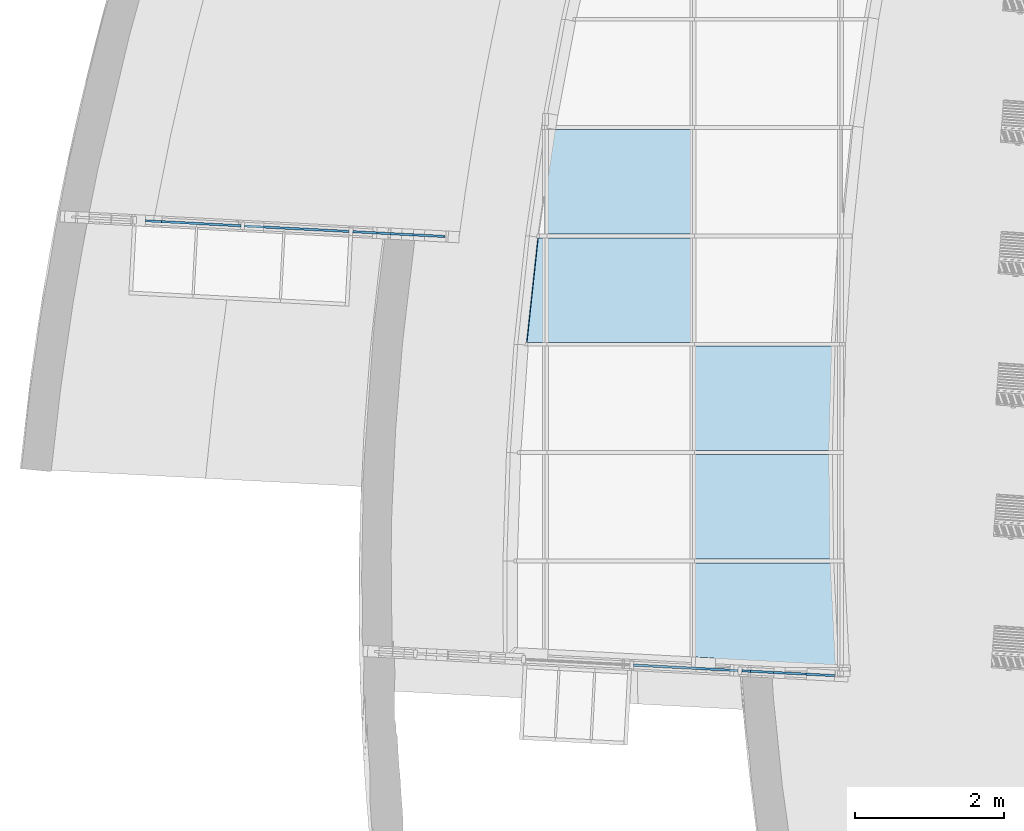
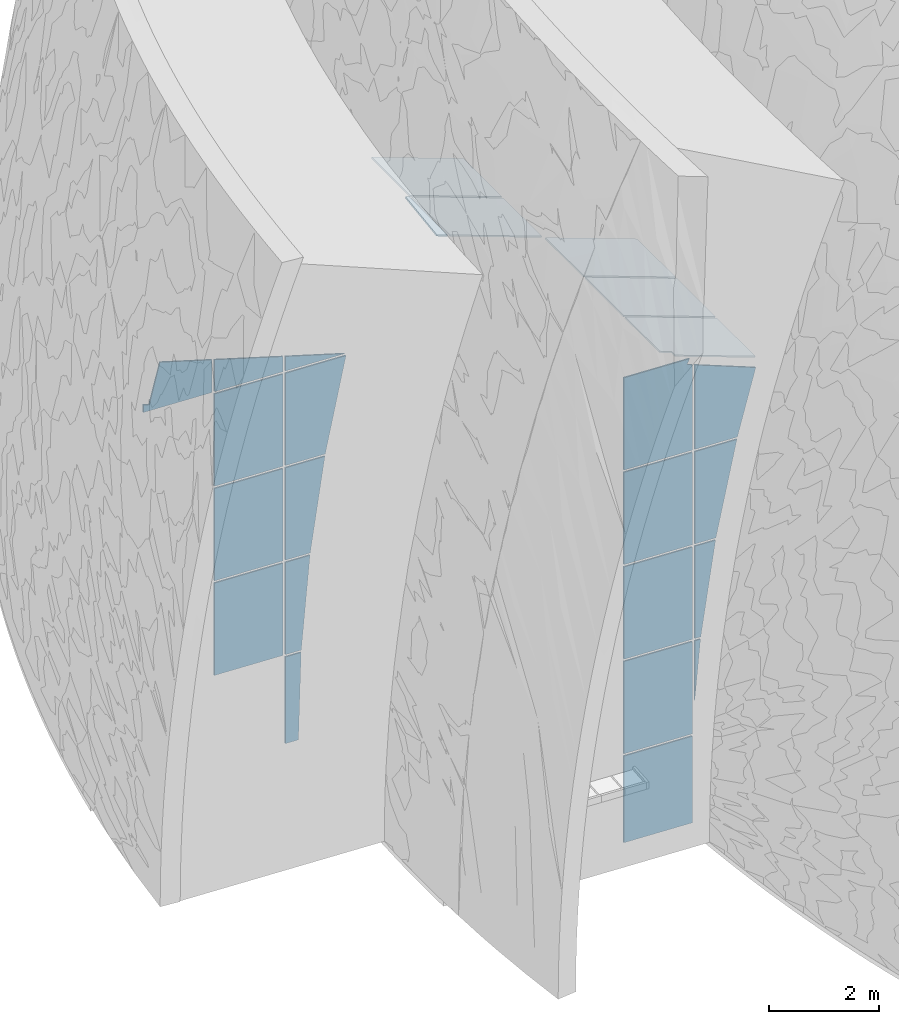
# One storey, part 38 of 82: 25 plates, 2 elements without a shape of their own.
"""IFC2X3 building model written with IfcOpenShell, lengths in millimetres."""

from ifc_helpers import new_model, entity, si_unit, converted_unit, derived_unit, direction, frame, frame_2d, origin, place, context, subcontext, project, spatial, polyline, rectangle, outline, extrude, source, transform, mapped, material, layer, layer_set, layer_usage, type_object, type_shapes, element, aggregate, save


model = new_model("IFC2X3")

# Units and contexts
model_context = context("Model", 3, precision=0.01, world=origin(), true_north=direction((6.12303176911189e-17, 1.0)))
body_context = subcontext(model_context, "Body", "Model", "MODEL_VIEW")
ifc_project = project(units=[si_unit("LENGTHUNIT", "METRE", prefix="MILLI"), si_unit("AREAUNIT", "SQUARE_METRE"), si_unit("VOLUMEUNIT", "CUBIC_METRE"), converted_unit("PLANEANGLEUNIT", "DEGREE", entity("IfcRatioMeasure", 0.0174532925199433), si_unit("PLANEANGLEUNIT", "RADIAN"), dimensions=[0, 0, 0, 0, 0, 0, 0]), si_unit("MASSUNIT", "GRAM", prefix="KILO"), derived_unit("MASSDENSITYUNIT", [(si_unit("MASSUNIT", "GRAM", prefix="KILO"), 1), (si_unit("LENGTHUNIT", "METRE"), -3)]), si_unit("TIMEUNIT", "SECOND"), si_unit("FREQUENCYUNIT", "HERTZ"), si_unit("THERMODYNAMICTEMPERATUREUNIT", "DEGREE_CELSIUS"), derived_unit("THERMALTRANSMITTANCEUNIT", [(si_unit("MASSUNIT", "GRAM", prefix="KILO"), 1), (si_unit("THERMODYNAMICTEMPERATUREUNIT", "KELVIN"), -1), (si_unit("TIMEUNIT", "SECOND"), -3)]), derived_unit("VOLUMETRICFLOWRATEUNIT", [(si_unit("LENGTHUNIT", "METRE"), 3), (si_unit("TIMEUNIT", "SECOND"), -1)]), si_unit("ELECTRICCURRENTUNIT", "AMPERE"), si_unit("ELECTRICVOLTAGEUNIT", "VOLT"), si_unit("POWERUNIT", "WATT"), si_unit("FORCEUNIT", "NEWTON", prefix="KILO"), si_unit("ILLUMINANCEUNIT", "LUX"), si_unit("LUMINOUSFLUXUNIT", "LUMEN"), si_unit("LUMINOUSINTENSITYUNIT", "CANDELA"), derived_unit("USERDEFINED", [(si_unit("MASSUNIT", "GRAM", prefix="KILO"), -1), (si_unit("LENGTHUNIT", "METRE"), -2), (si_unit("TIMEUNIT", "SECOND"), 3), (si_unit("LUMINOUSFLUXUNIT", "LUMEN"), 1)]), derived_unit("LINEARVELOCITYUNIT", [(si_unit("LENGTHUNIT", "METRE"), 1), (si_unit("TIMEUNIT", "SECOND"), -1)]), si_unit("PRESSUREUNIT", "PASCAL"), derived_unit("USERDEFINED", [(si_unit("LENGTHUNIT", "METRE"), -2), (si_unit("MASSUNIT", "GRAM", prefix="KILO"), 1), (si_unit("TIMEUNIT", "SECOND"), -2)])], contexts=[model_context])

# Site, building, storey
site_placement = place(None, origin())
site = spatial("IfcSite", under=ifc_project, at=site_placement, Name="表面", CompositionType="ELEMENT")
building_placement = place(site_placement, origin())
building = spatial("IfcBuilding", under=site, at=building_placement, CompositionType="ELEMENT")
storey_placement = place(building_placement, origin())
storey = spatial("IfcBuildingStorey", under=building, at=storey_placement, Name="1F", CompositionType="ELEMENT", Elevation=0.0)

# Curtain wall, plates
curtain_wall_type = type_object("IfcCurtainWallType", Name="幕墙系统:1450 x 2100mm", PredefinedType="NOTDEFINED")
curtain_wall_1_placement = place(storey_placement, origin())
curtain_wall_1 = element("IfcCurtainWall", 1, at=curtain_wall_1_placement, inside=storey, type_object=curtain_wall_type, Name="幕墙系统:1450 x 2100mm", ObjectType="幕墙系统:1450 x 2100mm")
ifc_material = material(Name="<Unnamed>")
ifc_layer = layer(ifc_material, 30.0)
ifc_layer_set = layer_set([ifc_layer], Name="幕墙系统:1450 x 2100mm")
ifc_layer_usage_1 = layer_usage(ifc_layer_set, "AXIS3", "POSITIVE", 0.0)
plate_type_1 = type_object("IfcPlateType", Name="玻璃", PredefinedType="CURTAIN_PANEL", material=ifc_layer_set)
shared_shape_1 = source(origin(), body_context, "Body", "SweptSolid", [
    extrude(outline(polyline([(-958.652714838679, -147.075876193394), (967.150379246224, -147.075876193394), (957.849788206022, 174.869663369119), (-966.347452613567, 119.282089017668), (-958.652714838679, -147.075876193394)])), frame((13.9026912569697, -15.0, 962.5), z_axis=(0.0, 1.0, 0.0), x_axis=(-0.0288766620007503, 0.0, 0.999582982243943)), (0.0, 0.0, 1.0), 30.0),
])
type_shapes(plate_type_1, [shared_shape_1])
plate_1_placement = place(curtain_wall_1_placement, frame((-41151.1614347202, -14448.3698261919, 150.0), z_axis=(0.0, 0.0, 1.0), x_axis=(-0.998629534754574, 0.0523359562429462, 0.0)))
plate_1 = element("IfcPlate", 2, at=plate_1_placement, type_object=plate_type_1, material=ifc_layer_usage_1, Name="系统嵌板:玻璃", ObjectType="玻璃", context=body_context, shape_type="MappedRepresentation", body=[
    mapped(shared_shape_1, transform((0.0, 0.0, 0.0), scale=1.0)),
])
ifc_layer_usage_2 = layer_usage(ifc_layer_set, "AXIS3", "POSITIVE", 0.0)
plate_type_2 = type_object("IfcPlateType", Name="玻璃", PredefinedType="CURTAIN_PANEL", material=ifc_layer_set)
shared_shape_2 = source(origin(), body_context, "Body", "SweptSolid", [
    extrude(outline(polyline([(-1010.95273394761, -206.02424893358), (1046.78322174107, -206.02424893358), (1003.23131972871, 294.820057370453), (-1039.06180752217, 117.228440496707), (-1010.95273394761, -206.02424893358)])), frame((44.5654457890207, -15.0, 1025.0), z_axis=(0.0, 1.0, 0.0), x_axis=(-0.0866300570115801, 0.0, 0.996240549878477)), (0.0, 0.0, 1.0), 30.0),
])
type_shapes(plate_type_2, [shared_shape_2])
plate_2_placement = place(curtain_wall_1_placement, frame((-41060.9579959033, -14453.097188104, 2125.0), z_axis=(0.0, 0.0, 1.0), x_axis=(-0.998629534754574, 0.0523359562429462, 0.0)))
plate_2 = element("IfcPlate", 3, at=plate_2_placement, type_object=plate_type_2, material=ifc_layer_usage_2, Name="系统嵌板:玻璃", ObjectType="玻璃", context=body_context, shape_type="MappedRepresentation", body=[
    mapped(shared_shape_2, transform((0.0, 0.0, 0.0), scale=1.0)),
])
ifc_layer_usage_3 = layer_usage(ifc_layer_set, "AXIS3", "POSITIVE", 0.0)
plate_type_3 = type_object("IfcPlateType", Name="玻璃", PredefinedType="CURTAIN_PANEL", material=ifc_layer_set)
shared_shape_3 = source(origin(), body_context, "Body", "SweptSolid", [
    extrude(rectangle(XDim=30.0, YDim=1400.0, at=frame_2d((0.0, 3.97903932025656e-13), x_axis=(1.0, 0.0))), frame((0.0, 0.0, 0.0), z_axis=(0.0, 0.0, 1.0), x_axis=(0.0, 1.0, 0.0)), (0.0, 0.0, 1.0), 2050.0),
])
type_shapes(plate_type_3, [shared_shape_3])
plate_3_placement = place(curtain_wall_1_placement, frame((-42060.9528124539, -14400.689680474, 2125.0), z_axis=(0.0, 0.0, 1.0), x_axis=(-0.998629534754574, 0.0523359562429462, 0.0)))
plate_3 = element("IfcPlate", 4, at=plate_3_placement, type_object=plate_type_3, material=ifc_layer_usage_3, Name="系统嵌板:玻璃", ObjectType="玻璃", context=body_context, shape_type="MappedRepresentation", body=[
    mapped(shared_shape_3, transform((0.0, 0.0, 0.0), scale=1.0)),
])
ifc_layer_usage_4 = layer_usage(ifc_layer_set, "AXIS3", "POSITIVE", 0.0)
plate_4_placement = place(curtain_wall_1_placement, frame((-42060.9528124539, -14400.689680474, 4225.0), z_axis=(0.0, 0.0, 1.0), x_axis=(-0.998629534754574, 0.0523359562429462, 0.0)))
plate_4 = element("IfcPlate", 5, at=plate_4_placement, type_object=plate_type_3, material=ifc_layer_usage_4, Name="系统嵌板:玻璃", ObjectType="玻璃", context=body_context, shape_type="MappedRepresentation", body=[
    mapped(shared_shape_3, transform((0.0, 0.0, 0.0), scale=1.0)),
])
ifc_layer_usage_5 = layer_usage(ifc_layer_set, "AXIS3", "POSITIVE", 0.0)
plate_5_placement = place(curtain_wall_1_placement, frame((-42060.9528124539, -14400.689680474, 6325.0), z_axis=(0.0, 0.0, 1.0), x_axis=(-0.998629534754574, 0.0523359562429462, 0.0)))
plate_5 = element("IfcPlate", 6, at=plate_5_placement, type_object=plate_type_3, material=ifc_layer_usage_5, Name="系统嵌板:玻璃", ObjectType="玻璃", context=body_context, shape_type="MappedRepresentation", body=[
    mapped(shared_shape_3, transform((0.0, 0.0, 0.0), scale=1.0)),
])

curtain_wall_2_placement = place(storey_placement, origin())
curtain_wall_2 = element("IfcCurtainWall", 7, at=curtain_wall_2_placement, inside=storey, type_object=curtain_wall_type, Name="幕墙系统:1450 x 2100mm", ObjectType="幕墙系统:1450 x 2100mm")
ifc_layer_usage_6 = layer_usage(ifc_layer_set, "AXIS3", "POSITIVE", 0.0)
plate_6_placement = place(curtain_wall_2_placement, frame((-34806.7632320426, -16671.8767198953, 9988.89403753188), z_axis=(-0.93969262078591, 0.0, 0.342020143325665), x_axis=(0.0, -1.0, 0.0)))
plate_6 = element("IfcPlate", 8, at=plate_6_placement, type_object=plate_type_3, material=ifc_layer_usage_6, Name="系统嵌板:玻璃", ObjectType="玻璃", context=body_context, shape_type="MappedRepresentation", body=[
    mapped(shared_shape_3, transform((0.0, 0.0, 0.0), scale=1.0)),
])
ifc_layer_usage_7 = layer_usage(ifc_layer_set, "AXIS3", "POSITIVE", 0.0)
plate_7_placement = place(curtain_wall_2_placement, frame((-34806.7632320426, -18121.8767198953, 9988.89403753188), z_axis=(-0.93969262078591, 0.0, 0.342020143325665), x_axis=(0.0, -1.0, 0.0)))
plate_7 = element("IfcPlate", 9, at=plate_7_placement, type_object=plate_type_3, material=ifc_layer_usage_7, Name="系统嵌板:玻璃", ObjectType="玻璃", context=body_context, shape_type="MappedRepresentation", body=[
    mapped(shared_shape_3, transform((0.0, 0.0, 0.0), scale=1.0)),
])
ifc_layer_usage_8 = layer_usage(ifc_layer_set, "AXIS3", "POSITIVE", 0.0)
plate_8_placement = place(curtain_wall_2_placement, frame((-36780.117735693, -13771.8767198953, 10707.1363385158), z_axis=(-0.93969262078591, 0.0, 0.342020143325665), x_axis=(0.0, -1.0, 0.0)))
plate_8 = element("IfcPlate", 10, at=plate_8_placement, type_object=plate_type_3, material=ifc_layer_usage_8, Name="系统嵌板:玻璃", ObjectType="玻璃", context=body_context, shape_type="MappedRepresentation", body=[
    mapped(shared_shape_3, transform((0.0, 0.0, 0.0), scale=1.0)),
])
ifc_layer_usage_9 = layer_usage(ifc_layer_set, "AXIS3", "POSITIVE", 0.0)
plate_9_placement = place(curtain_wall_2_placement, frame((-36780.117735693, -15221.8767198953, 10707.1363385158), z_axis=(-0.93969262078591, 0.0, 0.342020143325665), x_axis=(0.0, -1.0, 0.0)))
plate_9 = element("IfcPlate", 11, at=plate_9_placement, type_object=plate_type_3, material=ifc_layer_usage_9, Name="系统嵌板:玻璃", ObjectType="玻璃", context=body_context, shape_type="MappedRepresentation", body=[
    mapped(shared_shape_3, transform((0.0, 0.0, 0.0), scale=1.0)),
])
ifc_layer_usage_10 = layer_usage(ifc_layer_set, "AXIS3", "POSITIVE", 0.0)
plate_10_placement = place(curtain_wall_2_placement, frame((-36854.4447370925, -20277.6646656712, 2125.0), z_axis=(0.0, 0.0, 1.0), x_axis=(-0.998629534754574, 0.0523359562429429, 0.0)))
plate_10 = element("IfcPlate", 12, at=plate_10_placement, type_object=plate_type_3, material=ifc_layer_usage_10, Name="系统嵌板:玻璃", ObjectType="玻璃", context=body_context, shape_type="MappedRepresentation", body=[
    mapped(shared_shape_3, transform((0.0, 0.0, 0.0), scale=1.0)),
])
ifc_layer_usage_11 = layer_usage(ifc_layer_set, "AXIS3", "POSITIVE", 0.0)
plate_11_placement = place(curtain_wall_2_placement, frame((-36854.4447370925, -20277.6646656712, 4225.0), z_axis=(0.0, 0.0, 1.0), x_axis=(-0.998629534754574, 0.0523359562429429, 0.0)))
plate_11 = element("IfcPlate", 13, at=plate_11_placement, type_object=plate_type_3, material=ifc_layer_usage_11, Name="系统嵌板:玻璃", ObjectType="玻璃", context=body_context, shape_type="MappedRepresentation", body=[
    mapped(shared_shape_3, transform((0.0, 0.0, 0.0), scale=1.0)),
])
ifc_layer_usage_12 = layer_usage(ifc_layer_set, "AXIS3", "POSITIVE", 0.0)
plate_12_placement = place(curtain_wall_2_placement, frame((-36854.4447370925, -20277.6646656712, 6325.0), z_axis=(0.0, 0.0, 1.0), x_axis=(-0.998629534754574, 0.0523359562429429, 0.0)))
plate_12 = element("IfcPlate", 14, at=plate_12_placement, type_object=plate_type_3, material=ifc_layer_usage_12, Name="系统嵌板:玻璃", ObjectType="玻璃", context=body_context, shape_type="MappedRepresentation", body=[
    mapped(shared_shape_3, transform((0.0, 0.0, 0.0), scale=1.0)),
])

# Plate
ifc_layer_usage_13 = layer_usage(ifc_layer_set, "AXIS3", "POSITIVE", 0.0)
plate_type_4 = type_object("IfcPlateType", Name="玻璃", PredefinedType="CURTAIN_PANEL", material=ifc_layer_set)
shared_shape_4 = source(origin(), body_context, "Body", "SweptSolid", [
    extrude(outline(polyline([(-988.41692488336, -325.104748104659), (1083.29106325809, -325.104748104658), (966.822668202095, 473.098616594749), (-1061.69680657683, 177.110879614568), (-988.41692488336, -325.104748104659)])), frame((74.7805072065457, -15.0, 1025.0), z_axis=(0.0, 1.0, 0.0), x_axis=(-0.144384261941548, 0.0, 0.989521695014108)), (0.0, 0.0, 1.0), 30.0),
])
type_shapes(plate_type_4, [shared_shape_4])
plate_13_placement = place(curtain_wall_1_placement, frame((-40909.2055333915, -14461.050197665, 4225.0), z_axis=(0.0, 0.0, 1.0), x_axis=(-0.998629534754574, 0.0523359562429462, 0.0)))
plate_13 = element("IfcPlate", 15, at=plate_13_placement, type_object=plate_type_4, material=ifc_layer_usage_13, Name="系统嵌板:玻璃", ObjectType="玻璃", context=body_context, shape_type="MappedRepresentation", body=[
    mapped(shared_shape_4, transform((0.0, 0.0, 0.0), scale=1.0)),
])

ifc_layer_usage_14 = layer_usage(ifc_layer_set, "AXIS3", "POSITIVE", 0.0)
plate_type_5 = type_object("IfcPlateType", Name="玻璃", PredefinedType="CURTAIN_PANEL", material=ifc_layer_set)
shared_shape_5 = source(origin(), body_context, "Body", "SweptSolid", [
    extrude(outline(polyline([(-942.963216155, -502.141040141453), (1150.24759396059, -502.141040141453), (900.198413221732, 709.33429661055), (-1107.48279102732, 294.947783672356), (-942.963216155, -502.141040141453)])), frame((105.780283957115, -15.0, 1025.0), z_axis=(0.0, 1.0, 0.0), x_axis=(-0.202139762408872, 0.0, 0.979356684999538)), (0.0, 0.0, 1.0), 30.0),
])
type_shapes(plate_type_5, [shared_shape_5])
plate_14_placement = place(curtain_wall_1_placement, frame((-40694.3226260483, -14472.3117336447, 6325.0), z_axis=(0.0, 0.0, 1.0), x_axis=(-0.998629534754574, 0.0523359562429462, 0.0)))
plate_14 = element("IfcPlate", 16, at=plate_14_placement, type_object=plate_type_5, material=ifc_layer_usage_14, Name="系统嵌板:玻璃", ObjectType="玻璃", context=body_context, shape_type="MappedRepresentation", body=[
    mapped(shared_shape_5, transform((0.0, 0.0, 0.0), scale=1.0)),
])

ifc_layer_usage_15 = layer_usage(ifc_layer_set, "AXIS3", "POSITIVE", 0.0)
plate_type_6 = type_object("IfcPlateType", Name="玻璃", PredefinedType="CURTAIN_PANEL", material=ifc_layer_set)
shared_shape_6 = source(origin(), body_context, "Body", "SweptSolid", [
    extrude(outline(polyline([(-810.3579736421, -104.671354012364), (447.191238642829, -104.671354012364), (363.166734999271, 209.342708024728), (-810.3579736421, -104.671354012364)])), frame((202.468452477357, -15.0, 108.353817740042), z_axis=(0.0, 1.0, 0.0), x_axis=(0.966014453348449, 0.0, 0.258488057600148)), (0.0, 0.0, 1.0), 30.0),
])
type_shapes(plate_type_6, [shared_shape_6])
plate_15_placement = place(curtain_wall_1_placement, frame((-40705.4077318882, -14471.7307878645, 8425.0), z_axis=(0.0, 0.0, 1.0), x_axis=(-0.998629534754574, 0.0523359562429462, 0.0)))
plate_15 = element("IfcPlate", 17, at=plate_15_placement, type_object=plate_type_6, material=ifc_layer_usage_15, Name="系统嵌板:玻璃", ObjectType="玻璃", context=body_context, shape_type="MappedRepresentation", body=[
    mapped(shared_shape_6, transform((0.0, 0.0, 0.0), scale=1.0)),
])

ifc_layer_usage_16 = layer_usage(ifc_layer_set, "AXIS3", "POSITIVE", 0.0)
plate_type_7 = type_object("IfcPlateType", Name="玻璃", PredefinedType="CURTAIN_PANEL", material=ifc_layer_set)
shared_shape_7 = source(origin(), body_context, "Body", "SweptSolid", [
    extrude(outline(polyline([(-262.873968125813, -700.0), (75.5665839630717, -700.0), (450.181352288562, 700.0), (-262.873968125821, 700.0), (-262.873968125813, -700.0)])), frame((0.0, -15.0, 262.873968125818), z_axis=(0.0, 1.0, 0.0), x_axis=(0.0, 0.0, 1.0)), (0.0, 0.0, 1.0), 30.0),
])
type_shapes(plate_type_7, [shared_shape_7])
plate_16_placement = place(curtain_wall_1_placement, frame((-42060.9528124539, -14400.689680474, 8425.0), z_axis=(0.0, 0.0, 1.0), x_axis=(-0.998629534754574, 0.0523359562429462, 0.0)))
plate_16 = element("IfcPlate", 18, at=plate_16_placement, type_object=plate_type_7, material=ifc_layer_usage_16, Name="系统嵌板:玻璃", ObjectType="玻璃", context=body_context, shape_type="MappedRepresentation", body=[
    mapped(shared_shape_7, transform((0.0, 0.0, 0.0), scale=1.0)),
])

ifc_layer_usage_17 = layer_usage(ifc_layer_set, "AXIS3", "POSITIVE", 0.0)
plate_type_8 = type_object("IfcPlateType", Name="玻璃", PredefinedType="CURTAIN_PANEL", material=ifc_layer_set)
shared_shape_8 = source(origin(), body_context, "Body", "SweptSolid", [
    extrude(outline(polyline([(-340.753130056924, -856.753604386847), (385.681289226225, -856.753604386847), (669.599873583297, 204.299113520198), (-205.058179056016, 422.715304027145), (-168.716723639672, 543.246395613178), (-340.753130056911, 543.246395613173), (-340.753130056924, -856.753604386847)])), frame((156.753604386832, -15.0, 340.753130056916), z_axis=(0.0, 1.0, 0.0), x_axis=(0.0, 0.0, 1.0)), (0.0, 0.0, 1.0), 30.0),
])
type_shapes(plate_type_8, [shared_shape_8])
plate_17_placement = place(curtain_wall_1_placement, frame((-43508.9656378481, -14324.8025439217, 8425.0), z_axis=(0.0, 0.0, 1.0), x_axis=(-0.998629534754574, 0.0523359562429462, 0.0)))
plate_17 = element("IfcPlate", 19, at=plate_17_placement, type_object=plate_type_8, material=ifc_layer_usage_17, Name="系统嵌板:玻璃", ObjectType="玻璃", context=body_context, shape_type="MappedRepresentation", body=[
    mapped(shared_shape_8, transform((0.0, 0.0, 0.0), scale=1.0)),
])

aggregate(curtain_wall_1, [plate_1, plate_2, plate_3, plate_13, plate_4, plate_14, plate_5, plate_15, plate_16, plate_17])

ifc_layer_usage_18 = layer_usage(ifc_layer_set, "AXIS3", "POSITIVE", 0.0)
plate_type_9 = type_object("IfcPlateType", Name="玻璃", PredefinedType="CURTAIN_PANEL", material=ifc_layer_set)
shared_shape_9 = source(origin(), body_context, "Body", "SweptSolid", [
    extrude(rectangle(XDim=30.0, YDim=1400.0, at=frame_2d((0.0, 3.97903932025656e-13), x_axis=(1.0, 0.0))), frame((0.0, 0.0, 0.0), z_axis=(0.0, 0.0, 1.0), x_axis=(0.0, 1.0, 0.0)), (0.0, 0.0, 1.0), 1925.0),
])
type_shapes(plate_type_9, [shared_shape_9])
plate_18_placement = place(curtain_wall_2_placement, frame((-36854.4447370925, -20277.6646656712, 150.0), z_axis=(0.0, 0.0, 1.0), x_axis=(-0.998629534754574, 0.0523359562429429, 0.0)))
plate_18 = element("IfcPlate", 20, at=plate_18_placement, type_object=plate_type_9, material=ifc_layer_usage_18, Name="系统嵌板:玻璃", ObjectType="玻璃", context=body_context, shape_type="MappedRepresentation", body=[
    mapped(shared_shape_9, transform((0.0, 0.0, 0.0), scale=1.0)),
])

ifc_layer_usage_19 = layer_usage(ifc_layer_set, "AXIS3", "POSITIVE", 0.0)
plate_type_10 = type_object("IfcPlateType", Name="玻璃", PredefinedType="CURTAIN_PANEL", material=ifc_layer_set)
shared_shape_10 = source(origin(), body_context, "Body", "SweptSolid", [
    extrude(outline(polyline([(-1278.43115003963, -889.524233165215), (771.568849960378, -889.524233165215), (771.568849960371, 372.439599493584), (503.173230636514, 385.65733316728), (510.551369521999, 510.475766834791), (-1278.43115003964, 510.475766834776), (-1278.43115003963, -889.524233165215)])), frame((189.524233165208, -15.0, 1278.43115003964), z_axis=(0.0, 1.0, 0.0), x_axis=(0.0, 0.0, 1.0)), (0.0, 0.0, 1.0), 30.0),
])
type_shapes(plate_type_10, [shared_shape_10])
plate_19_placement = place(curtain_wall_2_placement, frame((-34806.7632320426, -19571.8767198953, 9988.89403753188), z_axis=(-0.93969262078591, 0.0, 0.342020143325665), x_axis=(0.0, -1.0, 0.0)))
plate_19 = element("IfcPlate", 21, at=plate_19_placement, type_object=plate_type_10, material=ifc_layer_usage_19, Name="系统嵌板:玻璃", ObjectType="玻璃", context=body_context, shape_type="MappedRepresentation", body=[
    mapped(shared_shape_10, transform((0.0, 0.0, 0.0), scale=1.0)),
])

ifc_layer_usage_20 = layer_usage(ifc_layer_set, "AXIS3", "POSITIVE", 0.0)
plate_type_11 = type_object("IfcPlateType", Name="玻璃", PredefinedType="CURTAIN_PANEL", material=ifc_layer_set)
shared_shape_11 = source(origin(), body_context, "Body", "SweptSolid", [
    extrude(outline(polyline([(-82.9912093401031, -700.0), (3.00512161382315, -700.0), (162.977297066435, 700.0), (-82.9912093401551, 700.0), (-82.9912093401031, -700.0)])), frame((0.0, -15.0, 82.9912093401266), z_axis=(0.0, 1.0, 0.0), x_axis=(0.0, 0.0, 1.0)), (0.0, 0.0, 1.0), 30.0),
])
type_shapes(plate_type_11, [shared_shape_11])
plate_20_placement = place(curtain_wall_2_placement, frame((-38753.4722393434, -15221.8767198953, 11425.3786394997), z_axis=(-0.93969262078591, 0.0, 0.342020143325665), x_axis=(0.0, -1.0, 0.0)))
plate_20 = element("IfcPlate", 22, at=plate_20_placement, type_object=plate_type_11, material=ifc_layer_usage_20, Name="系统嵌板:玻璃", ObjectType="玻璃", context=body_context, shape_type="MappedRepresentation", body=[
    mapped(shared_shape_11, transform((0.0, 0.0, 0.0), scale=1.0)),
])

ifc_layer_usage_21 = layer_usage(ifc_layer_set, "AXIS3", "POSITIVE", 0.0)
plate_type_12 = type_object("IfcPlateType", Name="玻璃", PredefinedType="CURTAIN_PANEL", material=ifc_layer_set)
shared_shape_12 = source(origin(), body_context, "Body", "SweptSolid", [
    extrude(outline(polyline([(-77.5421006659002, -440.756181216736), (38.7710503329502, -440.756181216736), (38.7710503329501, 881.512362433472), (-77.5421006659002, -440.756181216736)])), frame((19.385525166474, -15.0, 881.512362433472), z_axis=(0.0, 1.0, 0.0), x_axis=(1.0, 0.0, 0.0)), (0.0, 0.0, 1.0), 30.0),
])
type_shapes(plate_type_12, [shared_shape_12])
plate_21_placement = place(curtain_wall_2_placement, frame((-36047.3957120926, -20319.960312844, 2852.73145634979), z_axis=(0.0, 0.0, 1.0), x_axis=(-0.998629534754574, 0.0523359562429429, 0.0)))
plate_21 = element("IfcPlate", 23, at=plate_21_placement, type_object=plate_type_12, material=ifc_layer_usage_21, Name="系统嵌板:玻璃", ObjectType="玻璃", context=body_context, shape_type="MappedRepresentation", body=[
    mapped(shared_shape_12, transform((0.0, 0.0, 0.0), scale=1.0)),
])

ifc_layer_usage_22 = layer_usage(ifc_layer_set, "AXIS3", "POSITIVE", 0.0)
plate_type_13 = type_object("IfcPlateType", Name="玻璃", PredefinedType="CURTAIN_PANEL", material=ifc_layer_set)
shared_shape_13 = source(origin(), body_context, "Body", "SweptSolid", [
    extrude(outline(polyline([(-1016.21240840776, -134.776777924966), (1056.00603468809, -134.776777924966), (994.113079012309, 284.472932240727), (-1033.90670529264, -14.9193763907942), (-1016.21240840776, -134.776777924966)])), frame((75.6593004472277, -15.0, 1025.0), z_axis=(0.0, 1.0, 0.0), x_axis=(-0.146045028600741, 0.0, 0.989277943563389)), (0.0, 0.0, 1.0), 30.0),
])
type_shapes(plate_type_13, [shared_shape_13])
plate_22_placement = place(curtain_wall_2_placement, frame((-35893.8661584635, -20328.006455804, 4225.0), z_axis=(0.0, 0.0, 1.0), x_axis=(-0.998629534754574, 0.0523359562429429, 0.0)))
plate_22 = element("IfcPlate", 24, at=plate_22_placement, type_object=plate_type_13, material=ifc_layer_usage_22, Name="系统嵌板:玻璃", ObjectType="玻璃", context=body_context, shape_type="MappedRepresentation", body=[
    mapped(shared_shape_13, transform((0.0, 0.0, 0.0), scale=1.0)),
])

ifc_layer_usage_23 = layer_usage(ifc_layer_set, "AXIS3", "POSITIVE", 0.0)
plate_type_14 = type_object("IfcPlateType", Name="玻璃", PredefinedType="CURTAIN_PANEL", material=ifc_layer_set)
shared_shape_14 = source(origin(), body_context, "Body", "SweptSolid", [
    extrude(outline(polyline([(-981.161790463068, -315.781971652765), (1113.0814333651, -315.781971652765), (937.385910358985, 525.358550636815), (-1069.30555326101, 106.205392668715), (-981.161790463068, -315.781971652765)])), frame((107.04983668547, -15.0, 1025.0), z_axis=(0.0, 1.0, 0.0), x_axis=(-0.204464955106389, 0.0, 0.978873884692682)), (0.0, 0.0, 1.0), 30.0),
])
type_shapes(plate_type_14, [shared_shape_14])
plate_23_placement = place(curtain_wall_2_placement, frame((-35676.4143684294, -20339.4026212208, 6325.0), z_axis=(0.0, 0.0, 1.0), x_axis=(-0.998629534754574, 0.0523359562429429, 0.0)))
plate_23 = element("IfcPlate", 25, at=plate_23_placement, type_object=plate_type_14, material=ifc_layer_usage_23, Name="系统嵌板:玻璃", ObjectType="玻璃", context=body_context, shape_type="MappedRepresentation", body=[
    mapped(shared_shape_14, transform((0.0, 0.0, 0.0), scale=1.0)),
])

ifc_layer_usage_24 = layer_usage(ifc_layer_set, "AXIS3", "POSITIVE", 0.0)
plate_type_15 = type_object("IfcPlateType", Name="玻璃", PredefinedType="CURTAIN_PANEL", material=ifc_layer_set)
shared_shape_15 = source(origin(), body_context, "Body", "SweptSolid", [
    extrude(outline(polyline([(-711.154152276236, -539.93175430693), (762.040060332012, -539.93175430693), (882.000392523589, 779.335745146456), (-932.886300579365, 300.527763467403), (-711.154152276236, -539.93175430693)])), frame((93.9508490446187, -15.0, 825.359956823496), z_axis=(0.0, 1.0, 0.0), x_axis=(-0.255094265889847, 0.0, 0.966916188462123)), (0.0, 0.0, 1.0), 30.0),
])
type_shapes(plate_type_15, [shared_shape_15])
plate_24_placement = place(curtain_wall_2_placement, frame((-35483.8157596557, -20349.4962865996, 8425.0), z_axis=(0.0, 0.0, 1.0), x_axis=(-0.998629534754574, 0.0523359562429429, 0.0)))
plate_24 = element("IfcPlate", 26, at=plate_24_placement, type_object=plate_type_15, material=ifc_layer_usage_24, Name="系统嵌板:玻璃", ObjectType="玻璃", context=body_context, shape_type="MappedRepresentation", body=[
    mapped(shared_shape_15, transform((0.0, 0.0, 0.0), scale=1.0)),
])

ifc_layer_usage_25 = layer_usage(ifc_layer_set, "AXIS3", "POSITIVE", 0.0)
plate_type_16 = type_object("IfcPlateType", Name="玻璃", PredefinedType="CURTAIN_PANEL", material=ifc_layer_set)
shared_shape_16 = source(origin(), body_context, "Body", "SweptSolid", [
    extrude(outline(polyline([(-1321.53026428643, -493.769346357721), (573.627801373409, -493.769346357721), (612.493255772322, -386.840846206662), (728.469735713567, -438.081768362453), (728.469735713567, 906.23065364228), (-1321.53026428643, 906.230653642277), (-1321.53026428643, -493.769346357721)])), frame((-206.230653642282, -15.0, 1321.53026428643), z_axis=(0.0, 1.0, 0.0), x_axis=(0.0, 0.0, 1.0)), (0.0, 0.0, 1.0), 30.0),
])
type_shapes(plate_type_16, [shared_shape_16])
plate_25_placement = place(curtain_wall_2_placement, frame((-36854.4447370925, -20277.6646656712, 8425.0), z_axis=(0.0, 0.0, 1.0), x_axis=(-0.998629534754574, 0.0523359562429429, 0.0)))
plate_25 = element("IfcPlate", 27, at=plate_25_placement, type_object=plate_type_16, material=ifc_layer_usage_25, Name="系统嵌板:玻璃", ObjectType="玻璃", context=body_context, shape_type="MappedRepresentation", body=[
    mapped(shared_shape_16, transform((0.0, 0.0, 0.0), scale=1.0)),
])

aggregate(curtain_wall_2, [plate_6, plate_7, plate_19, plate_8, plate_9, plate_20, plate_18, plate_21, plate_10, plate_22, plate_11, plate_23, plate_12, plate_24, plate_25])

save(model, "model.ifc")
